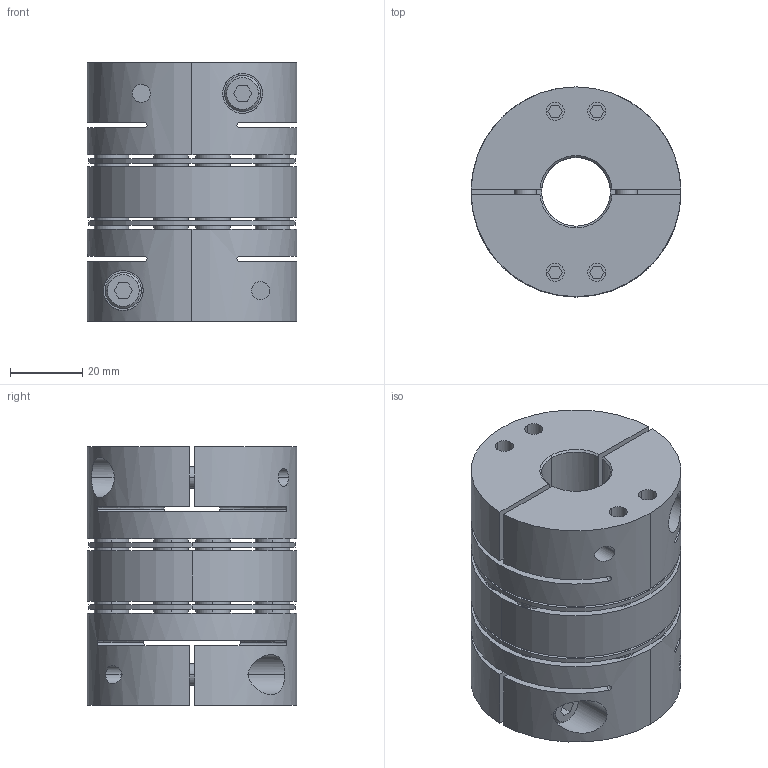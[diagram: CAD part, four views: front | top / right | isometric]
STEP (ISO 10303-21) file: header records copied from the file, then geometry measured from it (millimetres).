
FILE_DESCRIPTION((''),'2;1');
FILE_NAME('TAD-58C-19×30.stp','2022-11-13T22:26:15',(''),(''),'AutoCAD STEP 2000i','AutoCAD 2000i',', , ');
FILE_SCHEMA(('CONFIG_CONTROL_DESIGN'));
Length unit declared in the file: millimetre
Products named in the file (7): TAD-58C-12×22; 忣兜1; TA58C-22; CAP-M6×20; TA58C-12-2; TA58C-12; TAS-58C-ITA
Assembly tree (8 placements, depth 3):
  TAD-58C-12×22
    忣兜1
    TA58C-22
      CAP-M6×20
    TA58C-12-2
      CAP-M6×20
    TA58C-12
      CAP-M6×20
    TAS-58C-ITA
Bounding box: 58 x 58 x 71.5 mm (x, y, z)
Volume: 125224.4 mm3; surface area: 54727.2 mm2
Topology: 1 solids, 5 shells, 568 faces, 1361 edges, 937 vertices
Faces by surface type: plane 252, cylinder 228, cone 72, bspline 16
Entity records: 18651 total; most frequent: CARTESIAN_POINT 4810, DIRECTION 3008, ORIENTED_EDGE 2640, EDGE_CURVE 1320, AXIS2_PLACEMENT_3D 1142, VERTEX_POINT 860, EDGE_LOOP 724, VECTOR 724
